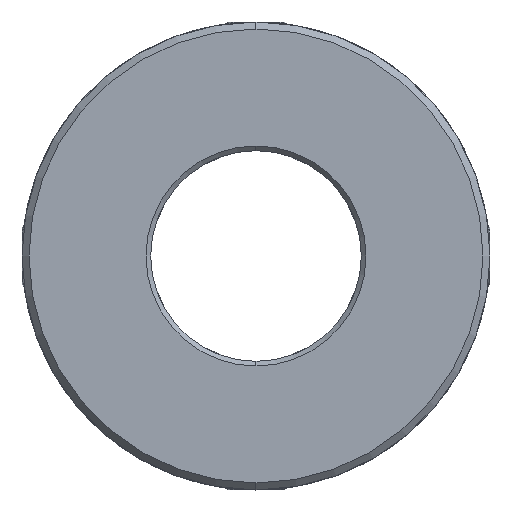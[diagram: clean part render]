
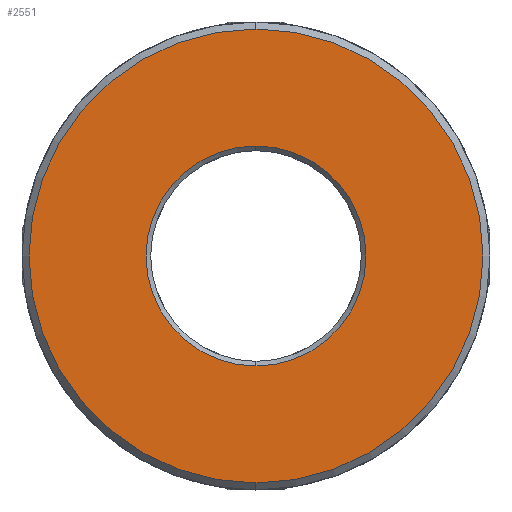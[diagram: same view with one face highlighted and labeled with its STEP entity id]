
A CAD part, front view. The second image highlights one B-rep face of the part: STEP entity #2551.
In plain terms, the highlighted planar face has unit normal (0, -1, 0).
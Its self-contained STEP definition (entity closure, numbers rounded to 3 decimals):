
#77 = EDGE_LOOP ( 'NONE', ( #5476, #4809 ) ) ;
#176 = DIRECTION ( 'NONE',  ( 0., 0., 1. ) ) ;
#425 = VERTEX_POINT ( 'NONE', #1528 ) ;
#536 = DIRECTION ( 'NONE',  ( 0., 0., 1. ) ) ;
#660 = CARTESIAN_POINT ( 'NONE',  ( 0., 0., 0. ) ) ;
#727 = DIRECTION ( 'NONE',  ( 0., 1., 0. ) ) ;
#829 = VERTEX_POINT ( 'NONE', #4555 ) ;
#843 = DIRECTION ( 'NONE',  ( 0., -1., 0. ) ) ;
#962 = VERTEX_POINT ( 'NONE', #3576 ) ;
#973 = FACE_OUTER_BOUND ( 'NONE', #77, .T. ) ;
#1096 = AXIS2_PLACEMENT_3D ( 'NONE', #5861, #7092, #536 ) ;
#1451 = AXIS2_PLACEMENT_3D ( 'NONE', #2591, #843, #176 ) ;
#1528 = CARTESIAN_POINT ( 'NONE',  ( 0., 0., 9.4 ) ) ;
#1773 = CIRCLE ( 'NONE', #1096, 19.4 ) ;
#1986 = AXIS2_PLACEMENT_3D ( 'NONE', #5787, #7030, #4763 ) ;
#2527 = FACE_BOUND ( 'NONE', #2782, .T. ) ;
#2551 = ADVANCED_FACE ( 'NONE', ( #2527, #973 ), #4810, .F. ) ;
#2591 = CARTESIAN_POINT ( 'NONE',  ( 0., 0., 0. ) ) ;
#2697 = CIRCLE ( 'NONE', #1451, 19.4 ) ;
#2782 = EDGE_LOOP ( 'NONE', ( #5348, #4838 ) ) ;
#3470 = EDGE_CURVE ( 'NONE', #4181, #425, #6279, .T. ) ;
#3576 = CARTESIAN_POINT ( 'NONE',  ( 0., 0., 19.4 ) ) ;
#3919 = CARTESIAN_POINT ( 'NONE',  ( 0., 0., -9.4 ) ) ;
#4181 = VERTEX_POINT ( 'NONE', #3919 ) ;
#4555 = CARTESIAN_POINT ( 'NONE',  ( 0., 0., -19.4 ) ) ;
#4610 = EDGE_CURVE ( 'NONE', #425, #4181, #5162, .T. ) ;
#4727 = AXIS2_PLACEMENT_3D ( 'NONE', #4864, #727, #4919 ) ;
#4763 = DIRECTION ( 'NONE',  ( 0., 0., 1. ) ) ;
#4809 = ORIENTED_EDGE ( 'NONE', *, *, #6252, .T. ) ;
#4810 = PLANE ( 'NONE',  #4727 ) ;
#4838 = ORIENTED_EDGE ( 'NONE', *, *, #4610, .T. ) ;
#4864 = CARTESIAN_POINT ( 'NONE',  ( 24.74, 0., -50. ) ) ;
#4919 = DIRECTION ( 'NONE',  ( 0., 0., 1. ) ) ;
#5162 = CIRCLE ( 'NONE', #1986, 9.4 ) ;
#5348 = ORIENTED_EDGE ( 'NONE', *, *, #3470, .T. ) ;
#5476 = ORIENTED_EDGE ( 'NONE', *, *, #5608, .T. ) ;
#5608 = EDGE_CURVE ( 'NONE', #962, #829, #1773, .T. ) ;
#5787 = CARTESIAN_POINT ( 'NONE',  ( 0., 0., 0. ) ) ;
#5861 = CARTESIAN_POINT ( 'NONE',  ( 0., 0., 0. ) ) ;
#5979 = DIRECTION ( 'NONE',  ( 0., 0., 1. ) ) ;
#6004 = DIRECTION ( 'NONE',  ( 0., 1., 0. ) ) ;
#6252 = EDGE_CURVE ( 'NONE', #829, #962, #2697, .T. ) ;
#6279 = CIRCLE ( 'NONE', #6675, 9.4 ) ;
#6675 = AXIS2_PLACEMENT_3D ( 'NONE', #660, #6004, #5979 ) ;
#7030 = DIRECTION ( 'NONE',  ( 0., 1., 0. ) ) ;
#7092 = DIRECTION ( 'NONE',  ( 0., -1., 0. ) ) ;
